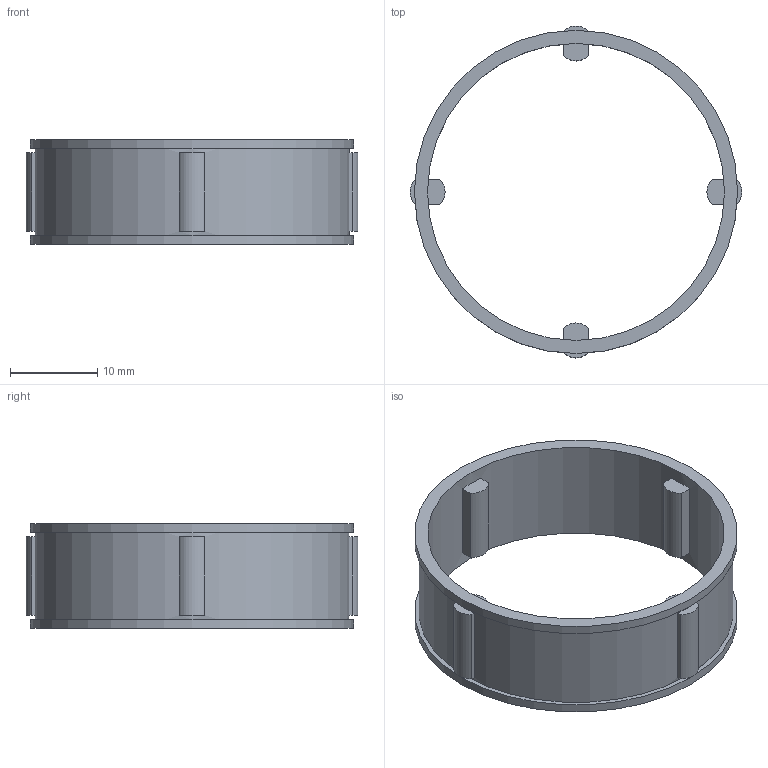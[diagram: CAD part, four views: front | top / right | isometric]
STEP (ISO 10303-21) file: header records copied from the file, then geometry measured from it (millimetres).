
FILE_DESCRIPTION(/* description */ (''),/* implementation_level */ '2;1');
FILE_NAME(/* name */ '300459 FE 438 M.stp',/* time_stamp */ '2016-11-03T13:35:01+01:00',/* author */ (''),/* organization */ (''),/* preprocessor_version */ 'ST-DEVELOPER v15',/* originating_system */ 'SIEMENS PLM Software NX 8.5',/* authorisation */ '');
FILE_SCHEMA (('CONFIG_CONTROL_DESIGN'));
Length unit declared in the file: millimetre
Products named in the file (1): ATE0000081_01
Bounding box: 38 x 38 x 12 mm (x, y, z)
Volume: 1709.6 mm3; surface area: 3304.5 mm2
Topology: 1 solids, 1 shells, 48 faces, 114 edges, 76 vertices
Faces by surface type: plane 36, cylinder 12
Full cylindrical faces by diameter (mm): 34 x1, 36 x1, 37 x2
Entity records: 1420 total; most frequent: DIRECTION 242, CARTESIAN_POINT 225, ORIENTED_EDGE 208, EDGE_CURVE 104, AXIS2_PLACEMENT_3D 89, VERTEX_POINT 72, LINE 64, VECTOR 64
